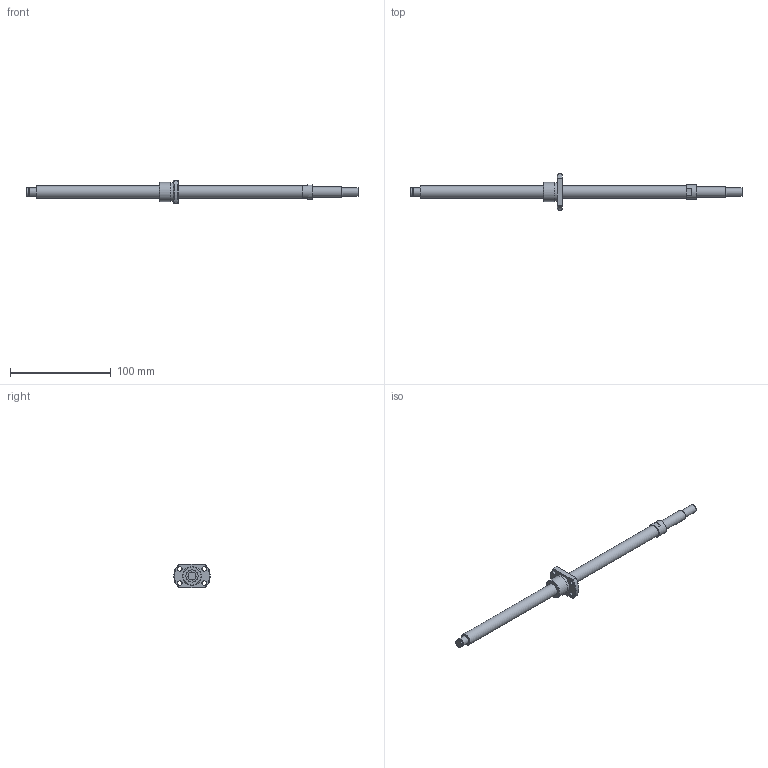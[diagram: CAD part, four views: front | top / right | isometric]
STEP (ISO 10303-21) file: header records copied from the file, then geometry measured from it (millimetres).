
FILE_DESCRIPTION(/* description */ ('STEP AP214'),/* implementation_level */ '2;1');
FILE_NAME(/* name */ 'SRT1202K-261R330C7B0X(B122.50X)',/* time_stamp */ '2026-08-06T15:12:55+02:00',/* author */ ('License CC BY-ND 4.0'),/* organization */ ('CADENAS'),/* preprocessor_version */ 'ST-DEVELOPER v20',/* originating_system */ 'PARTsolutions',/* authorisation */ ' ');
FILE_SCHEMA (('AUTOMOTIVE_DESIGN {1 0 10303 214 3 1 1}'));
Length unit declared in the file: millimetre
Products named in the file (3): SRT1202K-261R330C7B0X(B122.50X); 11BProcessing330; SR1202K_nut
Assembly tree (2 placements, depth 2):
  SRT1202K-261R330C7B0X(B122.50X)
    11BProcessing330
    SR1202K_nut
Bounding box: 330 x 36 x 23 mm (x, y, z)
Volume: 40341.3 mm3; surface area: 15802.8 mm2
Topology: 2 solids, 2 shells, 41 faces, 85 edges, 55 vertices
Faces by surface type: plane 19, cylinder 16, cone 6
Full cylindrical faces by diameter (mm): 4.5 x4, 7.6 x1, 8 x3, 10 x1, 12 x2, 14 x1, 18.6 x1, 19 x1
Entity records: 1115 total; most frequent: DIRECTION 190, CARTESIAN_POINT 190, ORIENTED_EDGE 136, AXIS2_PLACEMENT_3D 86, EDGE_LOOP 74, FACE_BOUND 74, EDGE_CURVE 68, VERTEX_POINT 54
